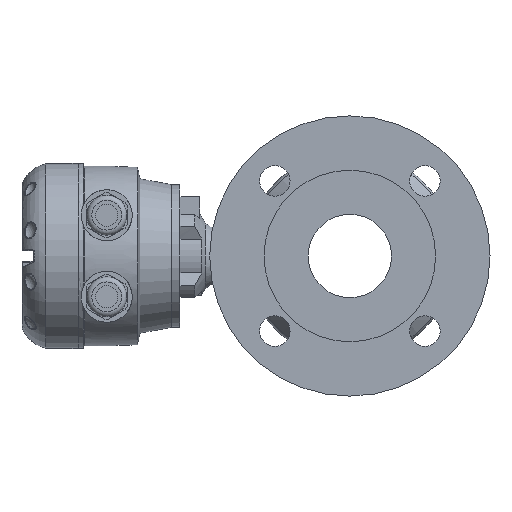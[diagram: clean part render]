
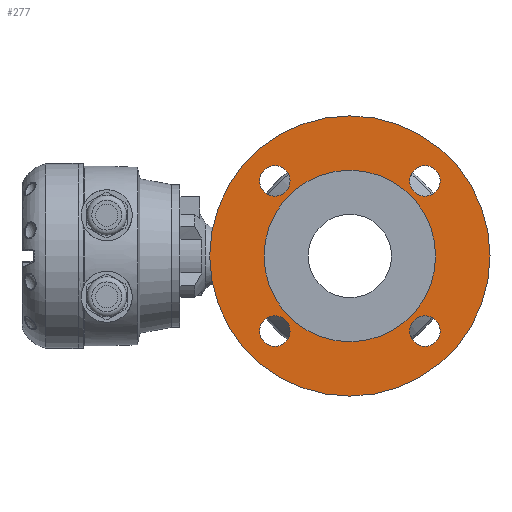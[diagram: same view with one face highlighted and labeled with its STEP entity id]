
A CAD part, left-side view. The second image highlights one B-rep face of the part: STEP entity #277.
In plain terms, the highlighted planar face has unit normal (-1, 0, 0).
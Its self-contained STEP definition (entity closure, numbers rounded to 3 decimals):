
#96 = EDGE_CURVE ( 'NONE', #15250, #15250, #9795, .T. ) ;
#277 = ADVANCED_FACE ( 'NONE', ( #10053, #10059, #10061, #10063, #10057, #10051 ), #3645, .T. ) ;
#832 = EDGE_CURVE ( 'NONE', #15264, #15264, #10658, .T. ) ;
#834 = EDGE_CURVE ( 'NONE', #15266, #15266, #10662, .T. ) ;
#886 = EDGE_CURVE ( 'NONE', #15286, #15286, #10749, .T. ) ;
#1552 = ORIENTED_EDGE ( 'NONE', *, *, #5488, .F. ) ;
#1554 = ORIENTED_EDGE ( 'NONE', *, *, #832, .F. ) ;
#1556 = ORIENTED_EDGE ( 'NONE', *, *, #5484, .F. ) ;
#1558 = ORIENTED_EDGE ( 'NONE', *, *, #834, .F. ) ;
#1559 = ORIENTED_EDGE ( 'NONE', *, *, #886, .F. ) ;
#1560 = ORIENTED_EDGE ( 'NONE', *, *, #96, .T. ) ;
#1571 = EDGE_LOOP ( 'NONE', ( #1560 ) ) ;
#1573 = EDGE_LOOP ( 'NONE', ( #1559 ) ) ;
#1576 = EDGE_LOOP ( 'NONE', ( #1558 ) ) ;
#1577 = EDGE_LOOP ( 'NONE', ( #1556 ) ) ;
#1578 = EDGE_LOOP ( 'NONE', ( #1554 ) ) ;
#1593 = EDGE_LOOP ( 'NONE', ( #1552 ) ) ;
#1695 = CARTESIAN_POINT ( 'NONE',  ( -89.805, -137.711, -54.737 ) ) ;
#1724 = DIRECTION ( 'NONE',  ( -1., 0., 0. ) ) ;
#1726 = DIRECTION ( 'NONE',  ( 0., 0., 1. ) ) ;
#1742 = CARTESIAN_POINT ( 'NONE',  ( -89.805, -49.323, 33.651 ) ) ;
#1746 = DIRECTION ( 'NONE',  ( -1., 0., 0. ) ) ;
#1748 = DIRECTION ( 'NONE',  ( 0., 0., 1. ) ) ;
#3638 = DIRECTION ( 'NONE',  ( 0., 0., -1. ) ) ;
#3639 = DIRECTION ( 'NONE',  ( -1., 0., 0. ) ) ;
#3645 = PLANE ( 'NONE',  #5855 ) ;
#3666 = CARTESIAN_POINT ( 'NONE',  ( -89.805, -93.517, -10.543 ) ) ;
#4726 = CARTESIAN_POINT ( 'NONE',  ( -89.805, -137.711, 33.651 ) ) ;
#4727 = DIRECTION ( 'NONE',  ( -1., 0., 0. ) ) ;
#4728 = DIRECTION ( 'NONE',  ( 0., 0., 1. ) ) ;
#4731 = CARTESIAN_POINT ( 'NONE',  ( -89.805, -49.323, -54.737 ) ) ;
#4732 = DIRECTION ( 'NONE',  ( -1., 0., 0. ) ) ;
#4733 = DIRECTION ( 'NONE',  ( 0., 0., 1. ) ) ;
#4857 = CARTESIAN_POINT ( 'NONE',  ( -89.805, -93.517, -10.543 ) ) ;
#4861 = DIRECTION ( 'NONE',  ( 1., 0., 0. ) ) ;
#4862 = DIRECTION ( 'NONE',  ( 0., 0., -1. ) ) ;
#5484 = EDGE_CURVE ( 'NONE', #15344, #15344, #6714, .T. ) ;
#5488 = EDGE_CURVE ( 'NONE', #15346, #15346, #6722, .T. ) ;
#5783 = AXIS2_PLACEMENT_3D ( 'NONE', #6637, #6603, #6617 ) ;
#5855 = AXIS2_PLACEMENT_3D ( 'NONE', #3666, #3639, #3638 ) ;
#5998 = AXIS2_PLACEMENT_3D ( 'NONE', #4731, #4732, #4733 ) ;
#6075 = AXIS2_PLACEMENT_3D ( 'NONE', #4726, #4727, #4728 ) ;
#6150 = AXIS2_PLACEMENT_3D ( 'NONE', #4857, #4861, #4862 ) ;
#6233 = AXIS2_PLACEMENT_3D ( 'NONE', #1695, #1724, #1726 ) ;
#6237 = AXIS2_PLACEMENT_3D ( 'NONE', #1742, #1746, #1748 ) ;
#6603 = DIRECTION ( 'NONE',  ( 1., 0., 0. ) ) ;
#6617 = DIRECTION ( 'NONE',  ( 0., 0., -1. ) ) ;
#6637 = CARTESIAN_POINT ( 'NONE',  ( -89.805, -93.517, -10.543 ) ) ;
#6714 = CIRCLE ( 'NONE', #6233, 9. ) ;
#6722 = CIRCLE ( 'NONE', #6237, 9. ) ;
#9795 = CIRCLE ( 'NONE', #5783, 50.5 ) ;
#10051 = FACE_BOUND ( 'NONE', #1571, .T. ) ;
#10053 = FACE_BOUND ( 'NONE', #1593, .T. ) ;
#10057 = FACE_OUTER_BOUND ( 'NONE', #1573, .T. ) ;
#10059 = FACE_BOUND ( 'NONE', #1578, .T. ) ;
#10061 = FACE_BOUND ( 'NONE', #1577, .T. ) ;
#10063 = FACE_BOUND ( 'NONE', #1576, .T. ) ;
#10658 = CIRCLE ( 'NONE', #6075, 9. ) ;
#10662 = CIRCLE ( 'NONE', #5998, 9. ) ;
#10749 = CIRCLE ( 'NONE', #6150, 82.5 ) ;
#15250 = VERTEX_POINT ( 'NONE', #15251 ) ;
#15251 = CARTESIAN_POINT ( 'NONE',  ( -89.805, -93.517, -61.043 ) ) ;
#15264 = VERTEX_POINT ( 'NONE', #15265 ) ;
#15265 = CARTESIAN_POINT ( 'NONE',  ( -89.805, -137.711, 42.651 ) ) ;
#15266 = VERTEX_POINT ( 'NONE', #15267 ) ;
#15267 = CARTESIAN_POINT ( 'NONE',  ( -89.805, -49.323, -45.737 ) ) ;
#15286 = VERTEX_POINT ( 'NONE', #15287 ) ;
#15287 = CARTESIAN_POINT ( 'NONE',  ( -89.805, -93.517, -93.043 ) ) ;
#15344 = VERTEX_POINT ( 'NONE', #15345 ) ;
#15345 = CARTESIAN_POINT ( 'NONE',  ( -89.805, -137.711, -45.737 ) ) ;
#15346 = VERTEX_POINT ( 'NONE', #15347 ) ;
#15347 = CARTESIAN_POINT ( 'NONE',  ( -89.805, -49.323, 42.651 ) ) ;
